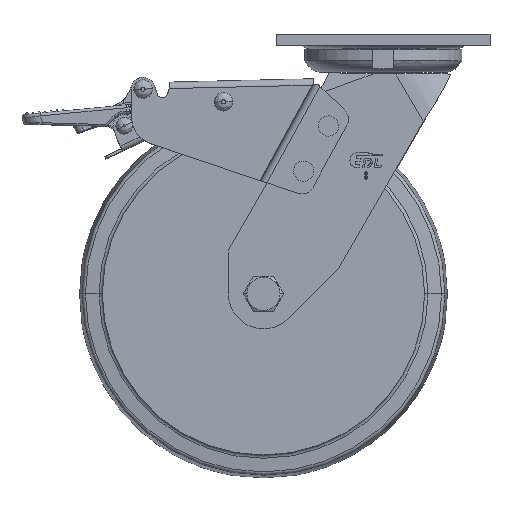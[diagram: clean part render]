
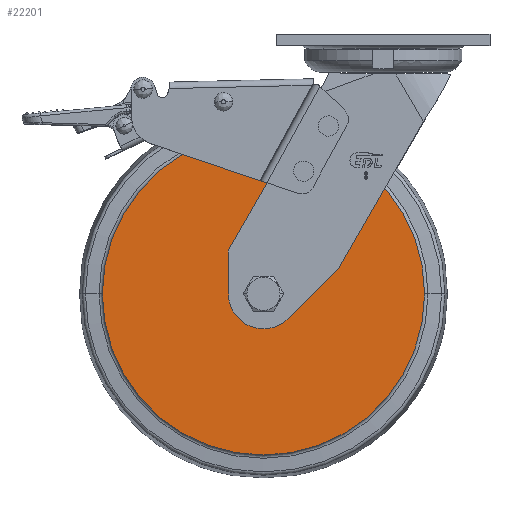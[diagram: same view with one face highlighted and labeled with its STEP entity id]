
A CAD part, top view. The second image highlights one B-rep face of the part: STEP entity #22201.
In plain terms, the highlighted planar face has unit normal (0, 0, 1) as drawn and (-1, 0, 0) by its records, which use the part's own axes.
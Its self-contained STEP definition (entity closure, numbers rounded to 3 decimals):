
#21846=CARTESIAN_POINT('',(-25.,0.,0.));
#21847=DIRECTION('',(-1.,0.,0.));
#21848=DIRECTION('',(0.,1.,0.));
#21849=AXIS2_PLACEMENT_3D('',#21846,#21847,#21848);
#21851=CARTESIAN_POINT('',(-25.,0.,0.));
#21852=DIRECTION('',(1.,0.,0.));
#21853=DIRECTION('',(0.,1.,0.));
#21854=AXIS2_PLACEMENT_3D('',#21851,#21852,#21853);
#21856=CARTESIAN_POINT('',(-25.,0.,0.));
#21857=DIRECTION('',(1.,0.,0.));
#21858=DIRECTION('',(0.,1.,0.));
#21859=AXIS2_PLACEMENT_3D('',#21856,#21857,#21858);
#21869=CARTESIAN_POINT('',(-25.,0.,0.));
#21870=DIRECTION('',(-1.,0.,0.));
#21871=DIRECTION('',(0.,1.,0.));
#21872=AXIS2_PLACEMENT_3D('',#21869,#21870,#21871);
#22120=CARTESIAN_POINT('',(-25.,12.,0.));
#22122=VERTEX_POINT('',#22120);
#22150=CARTESIAN_POINT('',(-25.,87.5,0.));
#22151=VERTEX_POINT('',#22150);
#22152=CARTESIAN_POINT('',(-25.,-12.,0.));
#22154=VERTEX_POINT('',#22152);
#22182=CARTESIAN_POINT('',(-25.,-87.5,0.));
#22183=VERTEX_POINT('',#22182);
#22184=CARTESIAN_POINT('',(-25.,0.,0.));
#22185=DIRECTION('',(1.,0.,0.));
#22186=DIRECTION('',(0.,-1.,0.));
#22187=AXIS2_PLACEMENT_3D('',#22184,#22185,#22186);
#22188=PLANE('',#22187);
#22190=ORIENTED_EDGE('',*,*,#22189,.F.);
#22192=ORIENTED_EDGE('',*,*,#22191,.T.);
#22193=EDGE_LOOP('',(#22190,#22192));
#22194=FACE_OUTER_BOUND('',#22193,.F.);
#22196=ORIENTED_EDGE('',*,*,#22195,.F.);
#22198=ORIENTED_EDGE('',*,*,#22197,.T.);
#22199=EDGE_LOOP('',(#22196,#22198));
#22200=FACE_BOUND('',#22199,.F.);
#21850=CIRCLE('',#21849,87.5);
#21855=CIRCLE('',#21854,87.5);
#21860=CIRCLE('',#21859,12.);
#21873=CIRCLE('',#21872,12.);
#22189=EDGE_CURVE('',#22151,#22183,#21850,.T.);
#22191=EDGE_CURVE('',#22151,#22183,#21855,.T.);
#22195=EDGE_CURVE('',#22122,#22154,#21860,.T.);
#22197=EDGE_CURVE('',#22122,#22154,#21873,.T.);
#22201=ADVANCED_FACE('',(#22194,#22200),#22188,.F.);
